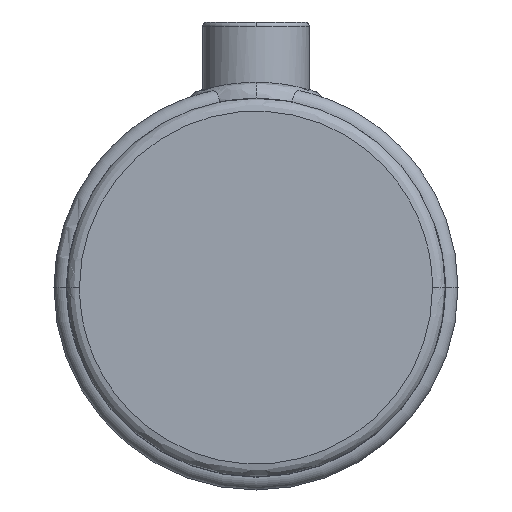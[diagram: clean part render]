
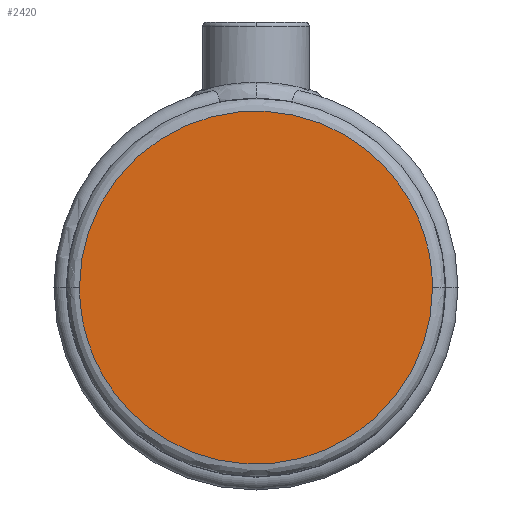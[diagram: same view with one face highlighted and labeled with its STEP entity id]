
A CAD part, top view. The second image highlights one B-rep face of the part: STEP entity #2420.
In plain terms, the highlighted planar face has unit normal (0, 0, 1).
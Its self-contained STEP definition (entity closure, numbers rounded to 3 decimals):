
#616 = CARTESIAN_POINT ( 'NONE',  ( -41.45, 82.9, 50. ) ) ;
#1231 = FACE_OUTER_BOUND ( 'NONE', #8218, .T. ) ;
#1444 = AXIS2_PLACEMENT_3D ( 'NONE', #5838, #6643, #1803 ) ;
#1767 = EDGE_CURVE ( 'NONE', #3637, #4043, #2634, .T. ) ;
#1803 = DIRECTION ( 'NONE',  ( 0., -1., 0. ) ) ;
#2241 = CARTESIAN_POINT ( 'NONE',  ( 41.45, 0., 50. ) ) ;
#2420 = ADVANCED_FACE ( 'NONE', ( #1231 ), #2573, .T. ) ;
#2573 = PLANE ( 'NONE',  #1444 ) ;
#2634 =( BOUNDED_CURVE ( )  B_SPLINE_CURVE ( 3, ( #7066, #616, #5469, #6278 ),
 .UNSPECIFIED., .F., .F. ) 
 B_SPLINE_CURVE_WITH_KNOTS ( ( 4, 4 ),
 ( 0.75, 1.25 ),
 .UNSPECIFIED. ) 
 CURVE ( )  GEOMETRIC_REPRESENTATION_ITEM ( )  RATIONAL_B_SPLINE_CURVE ( ( 1., 0.333, 0.333, 1. ) ) 
 REPRESENTATION_ITEM ( '' )  );
#3154 =( BOUNDED_CURVE ( )  B_SPLINE_CURVE ( 3, ( #2241, #7100, #10357, #5500 ),
 .UNSPECIFIED., .F., .F. ) 
 B_SPLINE_CURVE_WITH_KNOTS ( ( 4, 4 ),
 ( 0.25, 0.75 ),
 .UNSPECIFIED. ) 
 CURVE ( )  GEOMETRIC_REPRESENTATION_ITEM ( )  RATIONAL_B_SPLINE_CURVE ( ( 1., 0.333, 0.333, 1. ) ) 
 REPRESENTATION_ITEM ( '' )  );
#3637 = VERTEX_POINT ( 'NONE', #7763 ) ;
#4043 = VERTEX_POINT ( 'NONE', #6696 ) ;
#5431 = ORIENTED_EDGE ( 'NONE', *, *, #8493, .F. ) ;
#5469 = CARTESIAN_POINT ( 'NONE',  ( 41.45, 82.9, 50. ) ) ;
#5500 = CARTESIAN_POINT ( 'NONE',  ( -41.45, 0., 50. ) ) ;
#5838 = CARTESIAN_POINT ( 'NONE',  ( 0., 22.225, 50. ) ) ;
#6278 = CARTESIAN_POINT ( 'NONE',  ( 41.45, 0., 50. ) ) ;
#6643 = DIRECTION ( 'NONE',  ( 0., 0., 1. ) ) ;
#6696 = CARTESIAN_POINT ( 'NONE',  ( 41.45, 0., 50. ) ) ;
#7066 = CARTESIAN_POINT ( 'NONE',  ( -41.45, 0., 50. ) ) ;
#7100 = CARTESIAN_POINT ( 'NONE',  ( 41.45, -82.9, 50. ) ) ;
#7763 = CARTESIAN_POINT ( 'NONE',  ( -41.45, 0., 50. ) ) ;
#8218 = EDGE_LOOP ( 'NONE', ( #5431, #10146 ) ) ;
#8493 = EDGE_CURVE ( 'NONE', #4043, #3637, #3154, .T. ) ;
#10146 = ORIENTED_EDGE ( 'NONE', *, *, #1767, .F. ) ;
#10357 = CARTESIAN_POINT ( 'NONE',  ( -41.45, -82.9, 50. ) ) ;
